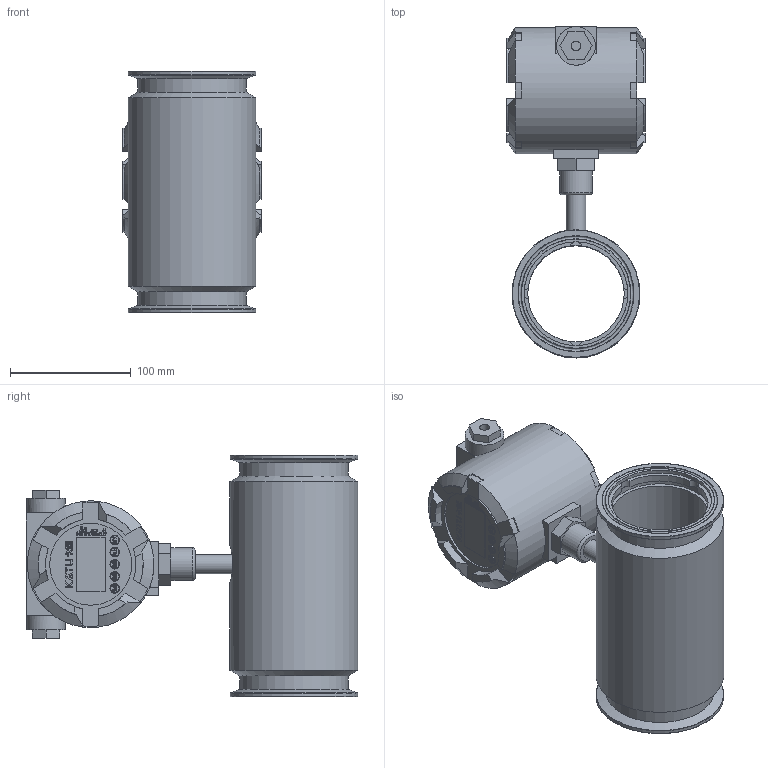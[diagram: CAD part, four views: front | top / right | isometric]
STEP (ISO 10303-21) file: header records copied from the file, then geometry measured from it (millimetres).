
FILE_DESCRIPTION( (''), '2;1');
FILE_NAME( 'QTKC_DN80_tri-clamp_Ex.step', '2024-10-14T13:47:34+08:00', (''), (''), '', '', '');
FILE_SCHEMA (('AUTOMOTIVE_DESIGN { 1 0 10303 214 3 1 1 1 }'));
Length unit declared in the file: millimetre
Products named in the file (1): QTKC DN80_tri-clamp_Ex
Bounding box: 115 x 275 x 200 mm (x, y, z)
Volume: 1612747.2 mm3; surface area: 212794.3 mm2
Topology: 4 solids, 4 shells, 1368 faces, 3727 edges, 2473 vertices
Faces by surface type: plane 734, extrusion 504, cylinder 92, cone 18, torus 16, bspline 4
Full cylindrical faces by diameter (mm): 3.3 x1, 8 x2, 16 x1, 16.5 x1, 18.5 x1, 20 x2, 27 x1, 32 x2, 68 x1, 80 x1, 86 x2, 87.347 x2, 90 x2, 105 x1, 105.9 x2, 106 x1
Entity records: 46259 total; most frequent: CARTESIAN_POINT 13852, ORIENTED_EDGE 7326, DIRECTION 5031, EDGE_CURVE 3663, VECTOR 2801, VERTEX_POINT 2454, LINE 2297, B_SPLINE_CURVE_WITH_KNOTS 1616
